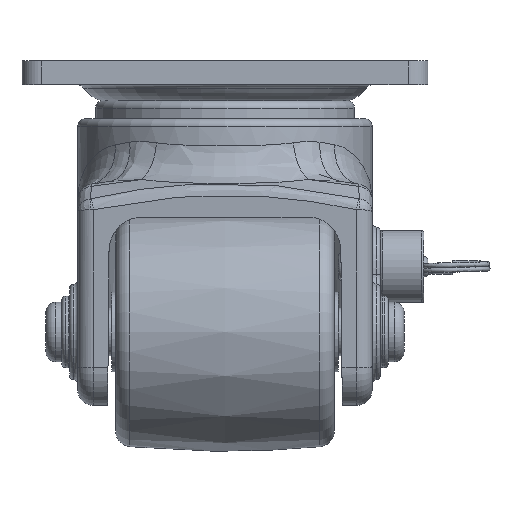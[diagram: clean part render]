
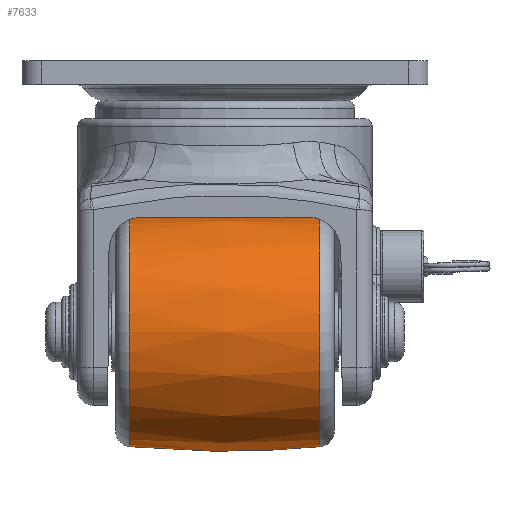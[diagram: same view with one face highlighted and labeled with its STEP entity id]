
A CAD part, left-side view. The second image highlights one B-rep face of the part: STEP entity #7633.
In plain terms, the highlighted free-form (B-spline) face has degree [2, 2] with [3, 9] control points.
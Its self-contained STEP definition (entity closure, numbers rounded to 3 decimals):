
#15=(
BOUNDED_CURVE()
B_SPLINE_CURVE(2,(#24102,#24103,#24104),.UNSPECIFIED.,.F.,.F.)
B_SPLINE_CURVE_WITH_KNOTS((3,3),(-0.096,0.096),
 .UNSPECIFIED.)
CURVE()
GEOMETRIC_REPRESENTATION_ITEM()
RATIONAL_B_SPLINE_CURVE((1.,0.995,1.))
REPRESENTATION_ITEM('')
);
#41=(
BOUNDED_SURFACE()
B_SPLINE_SURFACE(2,2,((#24074,#24075,#24076,#24077,#24078,#24079,#24080,
#24081,#24082),(#24083,#24084,#24085,#24086,#24087,#24088,#24089,#24090,
#24091),(#24092,#24093,#24094,#24095,#24096,#24097,#24098,#24099,#24100)),
 .UNSPECIFIED.,.F.,.T.,.F.)
B_SPLINE_SURFACE_WITH_KNOTS((3,3),(3,2,2,2,3),(-0.096,0.096),
(-3.142,-1.571,0.,1.571,3.142),
 .UNSPECIFIED.)
GEOMETRIC_REPRESENTATION_ITEM()
RATIONAL_B_SPLINE_SURFACE(((1.,0.707,1.,0.707,1.,
0.707,1.,0.707,1.),(0.995,0.704,
0.995,0.704,0.995,0.704,
0.995,0.704,0.995),(1.,0.707,
1.,0.707,1.,0.707,1.,0.707,1.)))
REPRESENTATION_ITEM('')
SURFACE()
);
#589=CIRCLE('',#8384,28.857);
#590=CIRCLE('',#8385,28.857);
#591=CIRCLE('',#8386,28.857);
#592=CIRCLE('',#8387,28.857);
#1621=FACE_OUTER_BOUND('',#2221,.T.);
#2221=EDGE_LOOP('',(#6936,#6937,#6938,#6939,#6940,#6941));
#3738=VERTEX_POINT('',#24070);
#3739=VERTEX_POINT('',#24071);
#3740=VERTEX_POINT('',#24101);
#3741=VERTEX_POINT('',#24105);
#4819=EDGE_CURVE('',#3738,#3739,#589,.T.);
#4820=EDGE_CURVE('',#3739,#3738,#590,.T.);
#4821=EDGE_CURVE('',#3739,#3740,#15,.T.);
#4822=EDGE_CURVE('',#3741,#3740,#591,.T.);
#4823=EDGE_CURVE('',#3740,#3741,#592,.T.);
#6936=ORIENTED_EDGE('',*,*,#4819,.T.);
#6937=ORIENTED_EDGE('',*,*,#4821,.T.);
#6938=ORIENTED_EDGE('',*,*,#4822,.F.);
#6939=ORIENTED_EDGE('',*,*,#4823,.F.);
#6940=ORIENTED_EDGE('',*,*,#4821,.F.);
#6941=ORIENTED_EDGE('',*,*,#4820,.T.);
#7633=ADVANCED_FACE('',(#1621),#41,.F.);
#8384=AXIS2_PLACEMENT_3D('',#24072,#10250,#10251);
#8385=AXIS2_PLACEMENT_3D('',#24073,#10252,#10253);
#8386=AXIS2_PLACEMENT_3D('',#24106,#10254,#10255);
#8387=AXIS2_PLACEMENT_3D('',#24107,#10256,#10257);
#10250=DIRECTION('center_axis',(0.,-1.,0.));
#10251=DIRECTION('ref_axis',(1.,0.,0.));
#10252=DIRECTION('center_axis',(0.,-1.,0.));
#10253=DIRECTION('ref_axis',(1.,0.,0.));
#10254=DIRECTION('center_axis',(0.,-1.,0.));
#10255=DIRECTION('ref_axis',(1.,0.,0.));
#10256=DIRECTION('center_axis',(0.,-1.,0.));
#10257=DIRECTION('ref_axis',(1.,0.,0.));
#24070=CARTESIAN_POINT('',(100.326,143.221,-17.05));
#24071=CARTESIAN_POINT('',(71.47,143.221,-45.907));
#24072=CARTESIAN_POINT('Origin',(71.47,143.221,-17.05));
#24073=CARTESIAN_POINT('Origin',(71.47,143.221,-17.05));
#24074=CARTESIAN_POINT('Ctrl Pts',(71.47,95.456,-45.907));
#24075=CARTESIAN_POINT('Ctrl Pts',(42.613,95.456,-45.907));
#24076=CARTESIAN_POINT('Ctrl Pts',(42.613,95.456,-17.05));
#24077=CARTESIAN_POINT('Ctrl Pts',(42.613,95.456,11.807));
#24078=CARTESIAN_POINT('Ctrl Pts',(71.47,95.456,11.807));
#24079=CARTESIAN_POINT('Ctrl Pts',(100.326,95.456,11.807));
#24080=CARTESIAN_POINT('Ctrl Pts',(100.326,95.456,-17.05));
#24081=CARTESIAN_POINT('Ctrl Pts',(100.326,95.456,-45.907));
#24082=CARTESIAN_POINT('Ctrl Pts',(71.47,95.456,-45.907));
#24083=CARTESIAN_POINT('Ctrl Pts',(71.47,119.339,-48.199));
#24084=CARTESIAN_POINT('Ctrl Pts',(40.321,119.339,-48.199));
#24085=CARTESIAN_POINT('Ctrl Pts',(40.321,119.339,-17.05));
#24086=CARTESIAN_POINT('Ctrl Pts',(40.321,119.339,14.099));
#24087=CARTESIAN_POINT('Ctrl Pts',(71.47,119.339,14.099));
#24088=CARTESIAN_POINT('Ctrl Pts',(102.618,119.339,14.099));
#24089=CARTESIAN_POINT('Ctrl Pts',(102.618,119.339,-17.05));
#24090=CARTESIAN_POINT('Ctrl Pts',(102.618,119.339,-48.199));
#24091=CARTESIAN_POINT('Ctrl Pts',(71.47,119.339,-48.199));
#24092=CARTESIAN_POINT('Ctrl Pts',(71.47,143.221,-45.907));
#24093=CARTESIAN_POINT('Ctrl Pts',(42.613,143.221,-45.907));
#24094=CARTESIAN_POINT('Ctrl Pts',(42.613,143.221,-17.05));
#24095=CARTESIAN_POINT('Ctrl Pts',(42.613,143.221,11.807));
#24096=CARTESIAN_POINT('Ctrl Pts',(71.47,143.221,11.807));
#24097=CARTESIAN_POINT('Ctrl Pts',(100.326,143.221,11.807));
#24098=CARTESIAN_POINT('Ctrl Pts',(100.326,143.221,-17.05));
#24099=CARTESIAN_POINT('Ctrl Pts',(100.326,143.221,-45.907));
#24100=CARTESIAN_POINT('Ctrl Pts',(71.47,143.221,-45.907));
#24101=CARTESIAN_POINT('',(71.47,95.456,-45.907));
#24102=CARTESIAN_POINT('Ctrl Pts',(71.47,143.221,-45.907));
#24103=CARTESIAN_POINT('Ctrl Pts',(71.47,119.339,-48.199));
#24104=CARTESIAN_POINT('Ctrl Pts',(71.47,95.456,-45.907));
#24105=CARTESIAN_POINT('',(100.326,95.456,-17.05));
#24106=CARTESIAN_POINT('Origin',(71.47,95.456,-17.05));
#24107=CARTESIAN_POINT('Origin',(71.47,95.456,-17.05));
